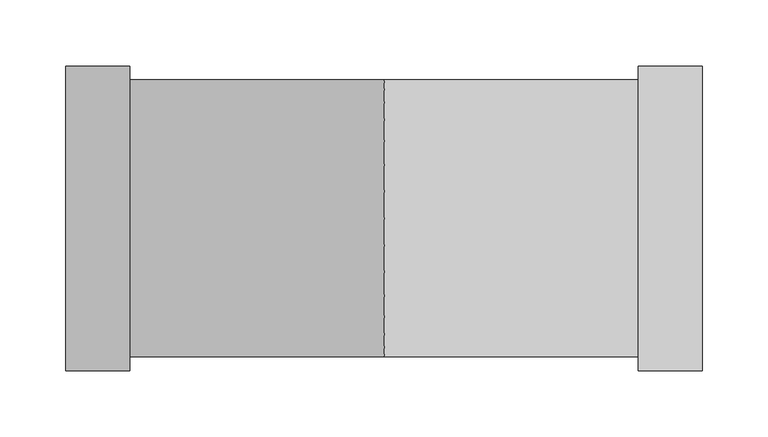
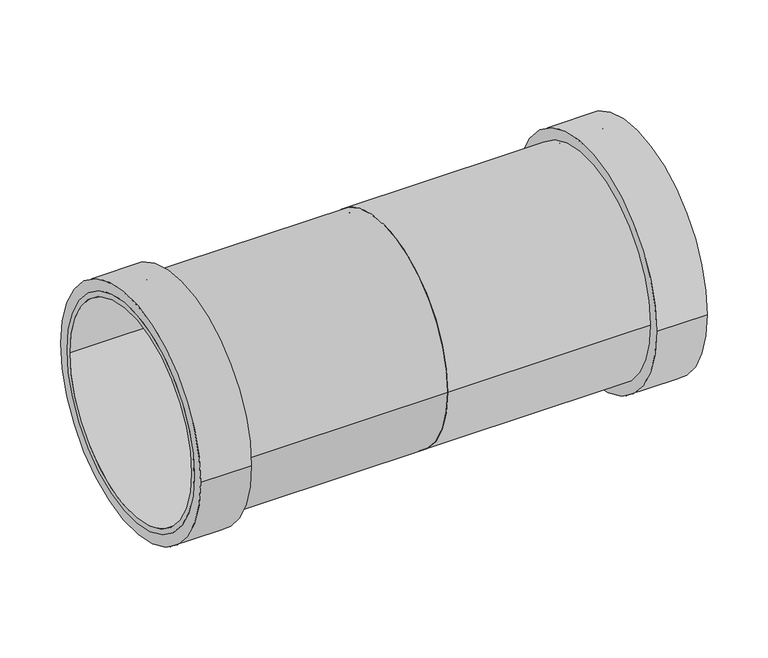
"""IFC4 building model written with IfcOpenShell, lengths in millimetres: pipe fitting geometry, Superdrain SKU-coupler : Superdrain SKU-coupler."""

from ifc_helpers import new_model, si_unit, point, frame, origin, origin_2d, place, context, project, spatial, circle_curve, trimmed, segment, composite_curve, outline, extrude, source, transform, mapped, element, save


def pipe_fitting_8957d1a8(model_context):
    return source(origin(), model_context, "Body", "SweptSolid", [
        extrude(outline(composite_curve([segment(trimmed(circle_curve(origin_2d(), 105.0), [point((105.0, 0.0))], [point((-105.0, 0.0))], False, "CARTESIAN"), True, "CONTINUOUS"), segment(trimmed(circle_curve(origin_2d(), 105.0), [point((-105.0, 0.0))], [point((105.0, 0.0))], False, "CARTESIAN"), True, "CONTINUOUS")], self_intersect=False), holes=[composite_curve([segment(trimmed(circle_curve(origin_2d(), 100.0), [point((100.0, 0.0))], [point((-100.0, 0.0))], True, "CARTESIAN"), True, "CONTINUOUS"), segment(trimmed(circle_curve(origin_2d(), 100.0), [point((-100.0, 0.0))], [point((100.0, 0.0))], True, "CARTESIAN"), True, "CONTINUOUS")], self_intersect=False)]), frame((0.0, 0.0, 0.0), z_axis=(1.0, 0.0, 0.0), x_axis=(0.0, 1.0, 0.0)), (0.0, 0.0, 1.0), 241.0),
        extrude(outline(composite_curve([segment(trimmed(circle_curve(origin_2d(), 115.5), [point((115.5, 0.0))], [point((-115.5, 0.0))], False, "CARTESIAN"), True, "CONTINUOUS"), segment(trimmed(circle_curve(origin_2d(), 115.5), [point((-115.5, 0.0))], [point((115.5, 0.0))], False, "CARTESIAN"), True, "CONTINUOUS")], self_intersect=False), holes=[composite_curve([segment(trimmed(circle_curve(origin_2d(), 100.0), [point((100.0, 0.0))], [point((-100.0, 0.0))], True, "CARTESIAN"), True, "CONTINUOUS"), segment(trimmed(circle_curve(origin_2d(), 100.0), [point((-100.0, 0.0))], [point((100.0, 0.0))], True, "CARTESIAN"), True, "CONTINUOUS")], self_intersect=False)]), frame((192.8, 0.0, 0.0), z_axis=(1.0, 0.0, 0.0), x_axis=(0.0, 1.0, 0.0)), (0.0, 0.0, 1.0), 48.2),
        extrude(outline(composite_curve([segment(trimmed(circle_curve(origin_2d(), 105.0), [point((-105.0, 0.0))], [point((105.0, 0.0))], False, "CARTESIAN"), True, "CONTINUOUS"), segment(trimmed(circle_curve(origin_2d(), 105.0), [point((105.0, 0.0))], [point((-105.0, 0.0))], False, "CARTESIAN"), True, "CONTINUOUS")], self_intersect=False), holes=[composite_curve([segment(trimmed(circle_curve(origin_2d(), 100.0), [point((-100.0, 0.0))], [point((100.0, 0.0))], True, "CARTESIAN"), True, "CONTINUOUS"), segment(trimmed(circle_curve(origin_2d(), 100.0), [point((100.0, 0.0))], [point((-100.0, 0.0))], True, "CARTESIAN"), True, "CONTINUOUS")], self_intersect=False)]), frame((-241.0, 0.0, 0.0), z_axis=(1.0, 0.0, 0.0), x_axis=(0.0, 1.0, 0.0)), (0.0, 0.0, 1.0), 241.0),
        extrude(outline(composite_curve([segment(trimmed(circle_curve(origin_2d(), 115.5), [point((-115.5, 0.0))], [point((115.5, 0.0))], False, "CARTESIAN"), True, "CONTINUOUS"), segment(trimmed(circle_curve(origin_2d(), 115.5), [point((115.5, 0.0))], [point((-115.5, 0.0))], False, "CARTESIAN"), True, "CONTINUOUS")], self_intersect=False), holes=[composite_curve([segment(trimmed(circle_curve(origin_2d(), 100.0), [point((-100.0, 0.0))], [point((100.0, 0.0))], True, "CARTESIAN"), True, "CONTINUOUS"), segment(trimmed(circle_curve(origin_2d(), 100.0), [point((100.0, 0.0))], [point((-100.0, 0.0))], True, "CARTESIAN"), True, "CONTINUOUS")], self_intersect=False)]), frame((-241.0, 0.0, 0.0), z_axis=(1.0, 0.0, 0.0), x_axis=(0.0, 1.0, 0.0)), (0.0, 0.0, 1.0), 48.2),
    ])


if __name__ == "__main__":
    model = new_model("IFC4")
    model_context = context("Model", 3, world=origin())
    ifc_project = project(units=[si_unit("LENGTHUNIT", "METRE", prefix="MILLI")], contexts=[model_context])
    site = spatial("IfcSite", under=ifc_project)
    building = spatial("IfcBuilding", under=site)
    placement = place(None, origin())
    pipe_fitting_shape = pipe_fitting_8957d1a8(model_context)
    element("IfcPipeFitting", 1, ObjectType="Superdrain SKU-coupler : Superdrain SKU-coupler", at=placement, inside=building, context=model_context, shape_type="MappedRepresentation", body=[
        mapped(pipe_fitting_shape, transform((0.0, 0.0, 0.0), x_axis=(1.0, 0.0, 0.0), y_axis=(0.0, 1.0, 0.0), z_axis=(0.0, 0.0, 1.0))),
    ])
    save(model, "model.ifc")
